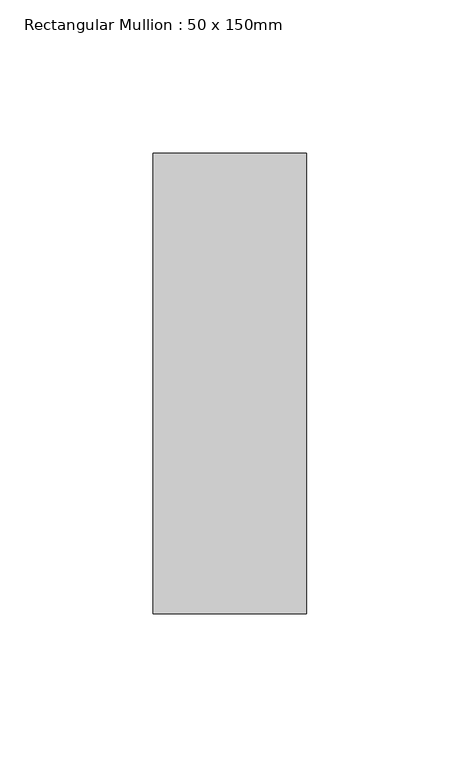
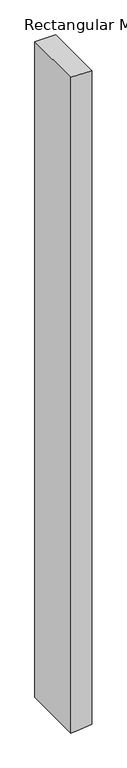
"""IFC4 building model written with IfcOpenShell, lengths in millimetres: member geometry, Rectangular Mullion : 50 x 150mm."""

from ifc_helpers import new_model, si_unit, frame, origin, place, context, project, spatial, polyline, outline, extrude, source, transform, mapped, element, save


def rectangular_mullion_50_x_150mm_c6d38b38(model_context):
    return source(origin(), model_context, "Body", "SweptSolid", [
        extrude(outline(polyline([(0.0, 25.0), (0.0, -25.0), (-1670.3244155, -25.0), (-1668.3136484, -5.0022633), (-1665.2969288, 25.0), (0.0, 25.0)])), frame((0.0, -75.0, 0.0), z_axis=(0.0, 1.0, 0.0), x_axis=(0.0, 0.0, 1.0)), (0.0, 0.0, 1.0), 150.0),
    ])


if __name__ == "__main__":
    model = new_model("IFC4")
    model_context = context("Model", 3, world=origin())
    ifc_project = project(units=[si_unit("LENGTHUNIT", "METRE", prefix="MILLI")], contexts=[model_context])
    site = spatial("IfcSite", under=ifc_project)
    building = spatial("IfcBuilding", under=site)
    placement = place(None, origin())
    rectangular_mullion_50_x_150mm_shape = rectangular_mullion_50_x_150mm_c6d38b38(model_context)
    element("IfcMember", 1, ObjectType="Rectangular Mullion : 50 x 150mm", at=placement, inside=building, context=model_context, shape_type="MappedRepresentation", body=[
        mapped(rectangular_mullion_50_x_150mm_shape, transform((0.0, 0.0, 0.0), x_axis=(1.0, 0.0, 0.0), y_axis=(0.0, 1.0, 0.0), z_axis=(0.0, 0.0, 1.0))),
    ])
    save(model, "model.ifc")
